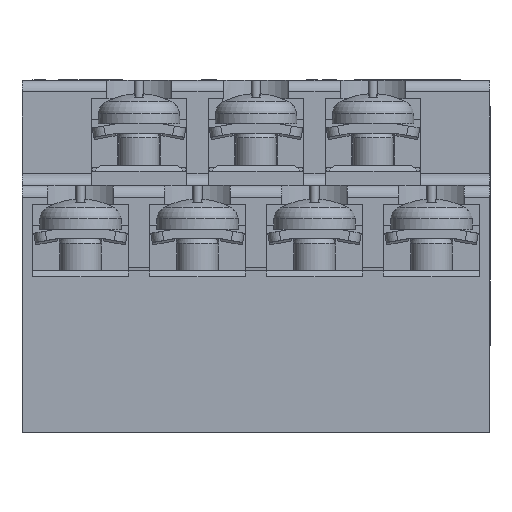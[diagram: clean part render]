
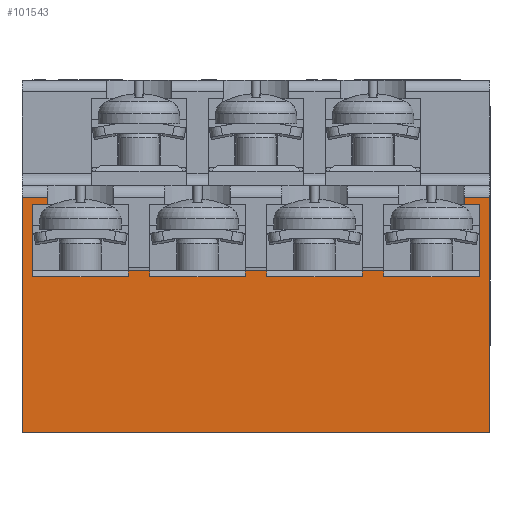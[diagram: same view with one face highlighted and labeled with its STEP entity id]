
A CAD part, left-side view. The second image highlights one B-rep face of the part: STEP entity #101543.
In plain terms, the highlighted planar face has unit normal (-1, 0, 0).
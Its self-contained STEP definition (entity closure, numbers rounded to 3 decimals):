
#6644=CARTESIAN_POINT('',(-43.5,19.1,10.2));
#6645=VERTEX_POINT('',#6644);
#6652=CARTESIAN_POINT('',(-43.5,19.1,4.));
#6653=VERTEX_POINT('',#6652);
#6654=CARTESIAN_POINT('',(-43.5,19.1,4.));
#6655=DIRECTION('',(0.0,0.0,1.0));
#6656=VECTOR('',#6655,6.2);
#6657=LINE('',#6654,#6656);
#6658=EDGE_CURVE('',#6653,#6645,#6657,.T.);
#7944=CARTESIAN_POINT('',(-43.5,20.,-9.3));
#7945=VERTEX_POINT('',#7944);
#7952=CARTESIAN_POINT('',(-43.5,20.0,10.8));
#7953=VERTEX_POINT('',#7952);
#7954=CARTESIAN_POINT('',(-43.5,20.0,-9.3));
#7955=DIRECTION('',(0.0,0.0,1.0));
#7956=VECTOR('',#7955,20.1);
#7957=LINE('',#7954,#7956);
#7958=EDGE_CURVE('',#7945,#7953,#7957,.T.);
#8501=CARTESIAN_POINT('',(-43.5,-20.0,10.8));
#8502=VERTEX_POINT('',#8501);
#8510=CARTESIAN_POINT('',(-43.5,-20.,-9.3));
#8511=VERTEX_POINT('',#8510);
#8512=CARTESIAN_POINT('',(-43.5,-20.,-9.3));
#8513=DIRECTION('',(0.0,0.0,1.0));
#8514=VECTOR('',#8513,20.1);
#8515=LINE('',#8512,#8514);
#8516=EDGE_CURVE('',#8511,#8502,#8515,.T.);
#17661=CARTESIAN_POINT('',(-43.5,-19.1,4.));
#17662=VERTEX_POINT('',#17661);
#17669=CARTESIAN_POINT('',(-43.5,-19.1,10.2));
#17670=VERTEX_POINT('',#17669);
#17671=CARTESIAN_POINT('',(-43.5,-19.1,10.2));
#17672=DIRECTION('',(0.0,0.0,-1.0));
#17673=VECTOR('',#17672,6.2);
#17674=LINE('',#17671,#17673);
#17675=EDGE_CURVE('',#17670,#17662,#17674,.T.);
#78024=CARTESIAN_POINT('',(-43.5,17.8,10.8));
#78025=VERTEX_POINT('',#78024);
#78026=CARTESIAN_POINT('',(-43.5,20.,10.8));
#78027=DIRECTION('',(0.0,-1.0,0.0));
#78028=VECTOR('',#78027,2.2);
#78029=LINE('',#78026,#78028);
#78030=EDGE_CURVE('',#7953,#78025,#78029,.T.);
#78527=CARTESIAN_POINT('',(-43.5,-17.8,10.8));
#78528=VERTEX_POINT('',#78527);
#78536=CARTESIAN_POINT('',(-43.5,-17.8,10.8));
#78537=DIRECTION('',(0.0,-1.0,0.0));
#78538=VECTOR('',#78537,2.2);
#78539=LINE('',#78536,#78538);
#78540=EDGE_CURVE('',#78528,#8502,#78539,.T.);
#78560=CARTESIAN_POINT('',(-43.5,-17.8,10.2));
#78561=VERTEX_POINT('',#78560);
#78568=CARTESIAN_POINT('',(-43.5,-17.8,10.8));
#78569=DIRECTION('',(0.0,0.0,-1.0));
#78570=VECTOR('',#78569,0.6);
#78571=LINE('',#78568,#78570);
#78572=EDGE_CURVE('',#78528,#78561,#78571,.T.);
#96546=CARTESIAN_POINT('',(-43.5,17.8,10.2));
#96547=VERTEX_POINT('',#96546);
#96548=CARTESIAN_POINT('',(-43.5,17.8,10.2));
#96549=DIRECTION('',(0.0,0.0,1.0));
#96550=VECTOR('',#96549,0.6);
#96551=LINE('',#96548,#96550);
#96552=EDGE_CURVE('',#96547,#78025,#96551,.T.);
#97592=CARTESIAN_POINT('',(-43.5,19.1,10.2));
#97593=DIRECTION('',(0.0,-1.0,0.0));
#97594=VECTOR('',#97593,1.3);
#97595=LINE('',#97592,#97594);
#97596=EDGE_CURVE('',#6645,#96547,#97595,.T.);
#98010=CARTESIAN_POINT('',(-43.5,-17.8,10.2));
#98011=DIRECTION('',(0.0,-1.0,0.0));
#98012=VECTOR('',#98011,1.3);
#98013=LINE('',#98010,#98012);
#98014=EDGE_CURVE('',#78561,#17670,#98013,.T.);
#101418=CARTESIAN_POINT('',(-43.5,-20.0,0.0));
#101419=DIRECTION('',(-1.0,0.0,0.0));
#101420=DIRECTION('',(0.0,0.0,1.0));
#101421=AXIS2_PLACEMENT_3D('',#101418,#101419,#101420);
#101422=PLANE('',#101421);
#101423=ORIENTED_EDGE('',*,*,#6658,.T.);
#101424=ORIENTED_EDGE('',*,*,#97596,.T.);
#101425=ORIENTED_EDGE('',*,*,#96552,.T.);
#101426=ORIENTED_EDGE('',*,*,#78030,.F.);
#101427=ORIENTED_EDGE('',*,*,#7958,.F.);
#101428=CARTESIAN_POINT('',(-43.5,20.,-9.3));
#101429=DIRECTION('',(0.0,-1.0,0.0));
#101430=VECTOR('',#101429,40.);
#101431=LINE('',#101428,#101430);
#101432=EDGE_CURVE('',#7945,#8511,#101431,.T.);
#101433=ORIENTED_EDGE('',*,*,#101432,.T.);
#101434=ORIENTED_EDGE('',*,*,#8516,.T.);
#101435=ORIENTED_EDGE('',*,*,#78540,.F.);
#101436=ORIENTED_EDGE('',*,*,#78572,.T.);
#101437=ORIENTED_EDGE('',*,*,#98014,.T.);
#101438=ORIENTED_EDGE('',*,*,#17675,.T.);
#101439=CARTESIAN_POINT('',(-43.5,-10.9,4.));
#101440=VERTEX_POINT('',#101439);
#101441=CARTESIAN_POINT('',(-43.5,-19.1,4.));
#101442=DIRECTION('',(0.0,1.0,0.0));
#101443=VECTOR('',#101442,8.2);
#101444=LINE('',#101441,#101443);
#101445=EDGE_CURVE('',#17662,#101440,#101444,.T.);
#101446=ORIENTED_EDGE('',*,*,#101445,.T.);
#101447=CARTESIAN_POINT('',(-43.5,-10.9,4.5));
#101448=VERTEX_POINT('',#101447);
#101449=CARTESIAN_POINT('',(-43.5,-10.9,4.));
#101450=DIRECTION('',(0.0,0.0,1.0));
#101451=VECTOR('',#101450,0.5);
#101452=LINE('',#101449,#101451);
#101453=EDGE_CURVE('',#101440,#101448,#101452,.T.);
#101454=ORIENTED_EDGE('',*,*,#101453,.T.);
#101455=CARTESIAN_POINT('',(-43.5,-9.1,4.5));
#101456=VERTEX_POINT('',#101455);
#101457=CARTESIAN_POINT('',(-43.5,-9.1,4.5));
#101458=DIRECTION('',(0.0,-1.0,0.0));
#101459=VECTOR('',#101458,1.8);
#101460=LINE('',#101457,#101459);
#101461=EDGE_CURVE('',#101456,#101448,#101460,.T.);
#101462=ORIENTED_EDGE('',*,*,#101461,.F.);
#101463=CARTESIAN_POINT('',(-43.5,-9.1,4.));
#101464=VERTEX_POINT('',#101463);
#101465=CARTESIAN_POINT('',(-43.5,-9.1,4.5));
#101466=DIRECTION('',(0.0,0.0,-1.0));
#101467=VECTOR('',#101466,0.5);
#101468=LINE('',#101465,#101467);
#101469=EDGE_CURVE('',#101456,#101464,#101468,.T.);
#101470=ORIENTED_EDGE('',*,*,#101469,.T.);
#101471=CARTESIAN_POINT('',(-43.5,-0.9,4.));
#101472=VERTEX_POINT('',#101471);
#101473=CARTESIAN_POINT('',(-43.5,-9.1,4.));
#101474=DIRECTION('',(0.0,1.0,0.0));
#101475=VECTOR('',#101474,8.2);
#101476=LINE('',#101473,#101475);
#101477=EDGE_CURVE('',#101464,#101472,#101476,.T.);
#101478=ORIENTED_EDGE('',*,*,#101477,.T.);
#101479=CARTESIAN_POINT('',(-43.5,-0.9,4.5));
#101480=VERTEX_POINT('',#101479);
#101481=CARTESIAN_POINT('',(-43.5,-0.9,4.));
#101482=DIRECTION('',(0.0,0.0,1.0));
#101483=VECTOR('',#101482,0.5);
#101484=LINE('',#101481,#101483);
#101485=EDGE_CURVE('',#101472,#101480,#101484,.T.);
#101486=ORIENTED_EDGE('',*,*,#101485,.T.);
#101487=CARTESIAN_POINT('',(-43.5,0.9,4.5));
#101488=VERTEX_POINT('',#101487);
#101489=CARTESIAN_POINT('',(-43.5,0.9,4.5));
#101490=DIRECTION('',(0.0,-1.0,0.0));
#101491=VECTOR('',#101490,1.8);
#101492=LINE('',#101489,#101491);
#101493=EDGE_CURVE('',#101488,#101480,#101492,.T.);
#101494=ORIENTED_EDGE('',*,*,#101493,.F.);
#101495=CARTESIAN_POINT('',(-43.5,0.9,4.));
#101496=VERTEX_POINT('',#101495);
#101497=CARTESIAN_POINT('',(-43.5,0.9,4.5));
#101498=DIRECTION('',(0.0,0.0,-1.0));
#101499=VECTOR('',#101498,0.5);
#101500=LINE('',#101497,#101499);
#101501=EDGE_CURVE('',#101488,#101496,#101500,.T.);
#101502=ORIENTED_EDGE('',*,*,#101501,.T.);
#101503=CARTESIAN_POINT('',(-43.5,9.1,4.));
#101504=VERTEX_POINT('',#101503);
#101505=CARTESIAN_POINT('',(-43.5,0.9,4.));
#101506=DIRECTION('',(0.0,1.0,0.0));
#101507=VECTOR('',#101506,8.2);
#101508=LINE('',#101505,#101507);
#101509=EDGE_CURVE('',#101496,#101504,#101508,.T.);
#101510=ORIENTED_EDGE('',*,*,#101509,.T.);
#101511=CARTESIAN_POINT('',(-43.5,9.1,4.5));
#101512=VERTEX_POINT('',#101511);
#101513=CARTESIAN_POINT('',(-43.5,9.1,4.));
#101514=DIRECTION('',(0.0,0.0,1.0));
#101515=VECTOR('',#101514,0.5);
#101516=LINE('',#101513,#101515);
#101517=EDGE_CURVE('',#101504,#101512,#101516,.T.);
#101518=ORIENTED_EDGE('',*,*,#101517,.T.);
#101519=CARTESIAN_POINT('',(-43.5,10.9,4.5));
#101520=VERTEX_POINT('',#101519);
#101521=CARTESIAN_POINT('',(-43.5,10.9,4.5));
#101522=DIRECTION('',(0.0,-1.0,0.0));
#101523=VECTOR('',#101522,1.8);
#101524=LINE('',#101521,#101523);
#101525=EDGE_CURVE('',#101520,#101512,#101524,.T.);
#101526=ORIENTED_EDGE('',*,*,#101525,.F.);
#101527=CARTESIAN_POINT('',(-43.5,10.9,4.));
#101528=VERTEX_POINT('',#101527);
#101529=CARTESIAN_POINT('',(-43.5,10.9,4.5));
#101530=DIRECTION('',(0.0,0.0,-1.0));
#101531=VECTOR('',#101530,0.5);
#101532=LINE('',#101529,#101531);
#101533=EDGE_CURVE('',#101520,#101528,#101532,.T.);
#101534=ORIENTED_EDGE('',*,*,#101533,.T.);
#101535=CARTESIAN_POINT('',(-43.5,10.9,4.));
#101536=DIRECTION('',(0.0,1.0,0.0));
#101537=VECTOR('',#101536,8.2);
#101538=LINE('',#101535,#101537);
#101539=EDGE_CURVE('',#101528,#6653,#101538,.T.);
#101540=ORIENTED_EDGE('',*,*,#101539,.T.);
#101541=EDGE_LOOP('',(#101423,#101424,#101425,#101426,#101427,#101433,#101434,#101435,#101436,#101437,#101438,#101446,#101454,#101462,#101470,#101478,#101486,#101494,#101502,#101510,#101518,#101526,#101534,#101540));
#101542=FACE_OUTER_BOUND('',#101541,.T.);
#101543=ADVANCED_FACE('',(#101542),#101422,.T.);
